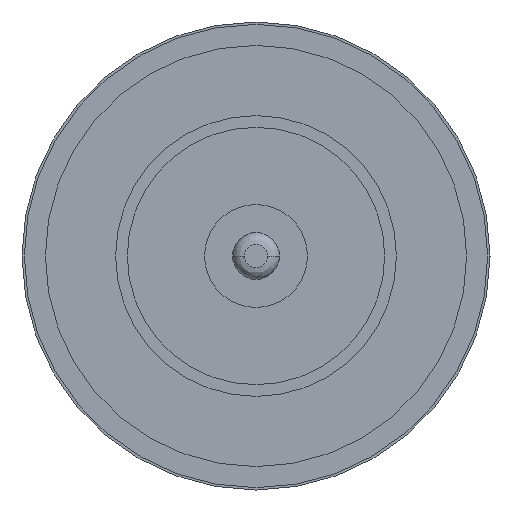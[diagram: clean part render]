
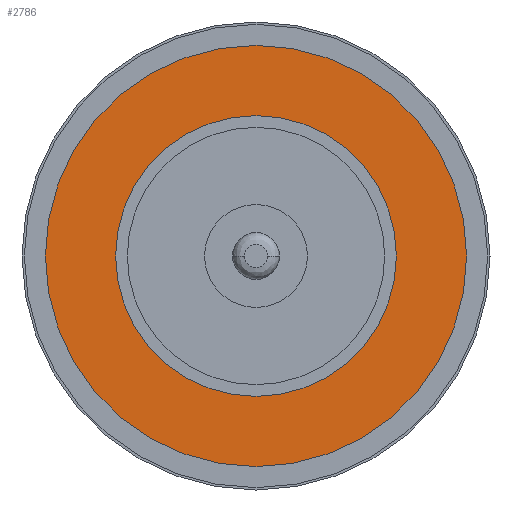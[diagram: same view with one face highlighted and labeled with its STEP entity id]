
A CAD part, left-side view. The second image highlights one B-rep face of the part: STEP entity #2786.
In plain terms, the highlighted planar face has unit normal (-1, 0, 0).
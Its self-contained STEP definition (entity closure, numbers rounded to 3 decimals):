
#209=CARTESIAN_POINT('',(0.,0.,0.));
#210=DIRECTION('',(-1.,0.,0.));
#211=DIRECTION('',(0.,1.,0.));
#212=AXIS2_PLACEMENT_3D('',#209,#210,#211);
#217=CARTESIAN_POINT('',(0.,0.,0.));
#218=DIRECTION('',(1.,0.,0.));
#219=DIRECTION('',(0.,1.,0.));
#220=AXIS2_PLACEMENT_3D('',#217,#218,#219);
#225=CARTESIAN_POINT('',(0.,0.,0.));
#226=DIRECTION('',(1.,0.,0.));
#227=DIRECTION('',(0.,1.,0.));
#228=AXIS2_PLACEMENT_3D('',#225,#226,#227);
#247=CARTESIAN_POINT('',(0.,0.,0.));
#248=DIRECTION('',(-1.,0.,0.));
#249=DIRECTION('',(0.,1.,0.));
#250=AXIS2_PLACEMENT_3D('',#247,#248,#249);
#2258=CARTESIAN_POINT('',(0.,4.5,0.));
#2260=VERTEX_POINT('',#2258);
#2270=CARTESIAN_POINT('',(0.,-4.5,0.));
#2272=VERTEX_POINT('',#2270);
#2273=CARTESIAN_POINT('',(0.,3.,0.));
#2275=VERTEX_POINT('',#2273);
#2293=CARTESIAN_POINT('',(0.,-3.,0.));
#2295=VERTEX_POINT('',#2293);
#2771=CARTESIAN_POINT('',(0.,0.,0.));
#2772=DIRECTION('',(1.,0.,0.));
#2773=DIRECTION('',(0.,-1.,0.));
#2774=AXIS2_PLACEMENT_3D('',#2771,#2772,#2773);
#2775=PLANE('',#2774);
#2776=ORIENTED_EDGE('',*,*,#2764,.F.);
#2777=ORIENTED_EDGE('',*,*,#2753,.T.);
#2778=EDGE_LOOP('',(#2776,#2777));
#2779=FACE_OUTER_BOUND('',#2778,.F.);
#2781=ORIENTED_EDGE('',*,*,#2780,.F.);
#2783=ORIENTED_EDGE('',*,*,#2782,.T.);
#2784=EDGE_LOOP('',(#2781,#2783));
#2785=FACE_BOUND('',#2784,.F.);
#2786=ADVANCED_FACE('',(#2779,#2785),#2775,.F.);
#213=CIRCLE('',#212,4.5);
#221=CIRCLE('',#220,4.5);
#229=CIRCLE('',#228,3.);
#251=CIRCLE('',#250,3.);
#2753=EDGE_CURVE('',#2260,#2272,#221,.T.);
#2764=EDGE_CURVE('',#2260,#2272,#213,.T.);
#2780=EDGE_CURVE('',#2275,#2295,#229,.T.);
#2782=EDGE_CURVE('',#2275,#2295,#251,.T.);
